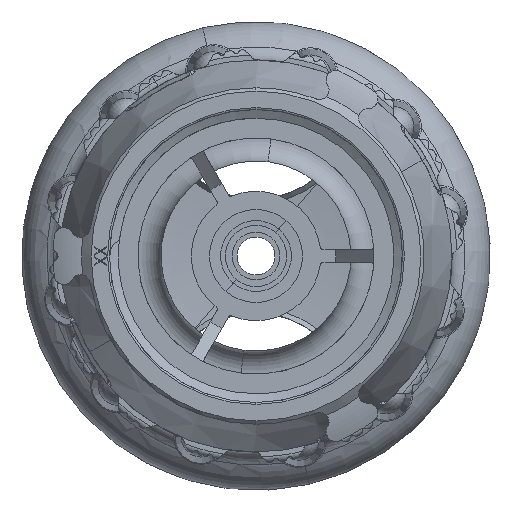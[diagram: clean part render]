
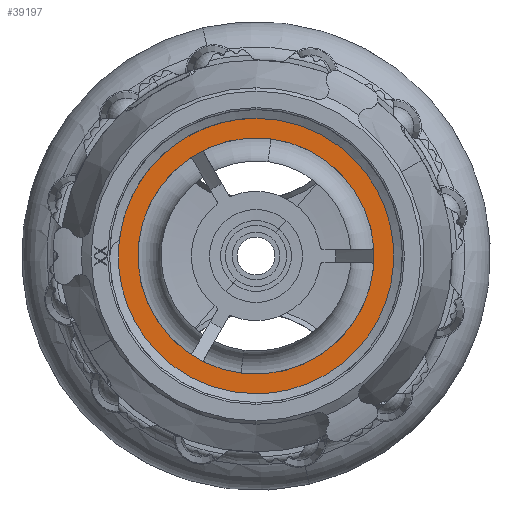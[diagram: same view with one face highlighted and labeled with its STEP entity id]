
A CAD part, left-side view. The second image highlights one B-rep face of the part: STEP entity #39197.
In plain terms, the highlighted planar face has unit normal (-1, 0, 0).
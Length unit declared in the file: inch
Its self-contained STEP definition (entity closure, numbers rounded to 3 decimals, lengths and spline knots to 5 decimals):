
#12525 = CARTESIAN_POINT ( 'NONE',  ( -5.3975, 0.13485, -1.24271 ) ) ;
#12799 = VERTEX_POINT ( 'NONE', #35664 ) ;
#13082 = VERTEX_POINT ( 'NONE', #35879 ) ;
#13113 = VERTEX_POINT ( 'NONE', #35901 ) ;
#15403 = ORIENTED_EDGE ( 'NONE', *, *, #42848, .F. ) ;
#15404 = ORIENTED_EDGE ( 'NONE', *, *, #42849, .F. ) ;
#15405 = ORIENTED_EDGE ( 'NONE', *, *, #42846, .T. ) ;
#15406 = ORIENTED_EDGE ( 'NONE', *, *, #42843, .T. ) ;
#16889 = FACE_OUTER_BOUND ( 'NONE', #43320, .T. ) ;
#16898 = FACE_BOUND ( 'NONE', #43331, .T. ) ;
#19422 = AXIS2_PLACEMENT_3D ( 'NONE', #47483, #47484, #47485 ) ;
#19424 = AXIS2_PLACEMENT_3D ( 'NONE', #47490, #47491, #47492 ) ;
#19429 = AXIS2_PLACEMENT_3D ( 'NONE', #47498, #47499, #47500 ) ;
#19431 = AXIS2_PLACEMENT_3D ( 'NONE', #47503, #47504, #47505 ) ;
#20192 = VERTEX_POINT ( 'NONE', #12525 ) ;
#21374 = CIRCLE ( 'NONE', #19422, 1.25 ) ;
#21386 = CIRCLE ( 'NONE', #19424, 1.25 ) ;
#21388 = CIRCLE ( 'NONE', #19431, 1.6 ) ;
#21391 = CIRCLE ( 'NONE', #19429, 1.6 ) ;
#23915 = AXIS2_PLACEMENT_3D ( 'NONE', #34801, #34806, #34807 ) ;
#34801 = CARTESIAN_POINT ( 'NONE',  ( -5.3975, -1.24271, -0.13485 ) ) ;
#34804 = PLANE ( 'NONE',  #23915 ) ;
#34806 = DIRECTION ( 'NONE',  ( 1., 0., 0. ) ) ;
#34807 = DIRECTION ( 'NONE',  ( 0., -0.108, 0.994 ) ) ;
#35664 = CARTESIAN_POINT ( 'NONE',  ( -5.3975, -0.13485, 1.24271 ) ) ;
#35879 = CARTESIAN_POINT ( 'NONE',  ( -5.3975, -0.17261, 1.59066 ) ) ;
#35901 = CARTESIAN_POINT ( 'NONE',  ( -5.3975, 0.17261, -1.59066 ) ) ;
#39197 = ADVANCED_FACE ( 'NONE', ( #16889, #16898 ), #34804, .F. ) ;
#42843 = EDGE_CURVE ( 'NONE', #20192, #12799, #21374, .T. ) ;
#42846 = EDGE_CURVE ( 'NONE', #12799, #20192, #21386, .T. ) ;
#42848 = EDGE_CURVE ( 'NONE', #13082, #13113, #21391, .T. ) ;
#42849 = EDGE_CURVE ( 'NONE', #13113, #13082, #21388, .T. ) ;
#43320 = EDGE_LOOP ( 'NONE', ( #15403, #15404 ) ) ;
#43331 = EDGE_LOOP ( 'NONE', ( #15405, #15406 ) ) ;
#47483 = CARTESIAN_POINT ( 'NONE',  ( -5.3975, 0., 0. ) ) ;
#47484 = DIRECTION ( 'NONE',  ( 1., 0., 0. ) ) ;
#47485 = DIRECTION ( 'NONE',  ( 0., -0.108, 0.994 ) ) ;
#47490 = CARTESIAN_POINT ( 'NONE',  ( -5.3975, 0., 0. ) ) ;
#47491 = DIRECTION ( 'NONE',  ( 1., 0., 0. ) ) ;
#47492 = DIRECTION ( 'NONE',  ( 0., -0.108, 0.994 ) ) ;
#47498 = CARTESIAN_POINT ( 'NONE',  ( -5.3975, 0., 0. ) ) ;
#47499 = DIRECTION ( 'NONE',  ( 1., 0., 0. ) ) ;
#47500 = DIRECTION ( 'NONE',  ( 0., -0.108, 0.994 ) ) ;
#47503 = CARTESIAN_POINT ( 'NONE',  ( -5.3975, 0., 0. ) ) ;
#47504 = DIRECTION ( 'NONE',  ( 1., 0., 0. ) ) ;
#47505 = DIRECTION ( 'NONE',  ( 0., -0.108, 0.994 ) ) ;
